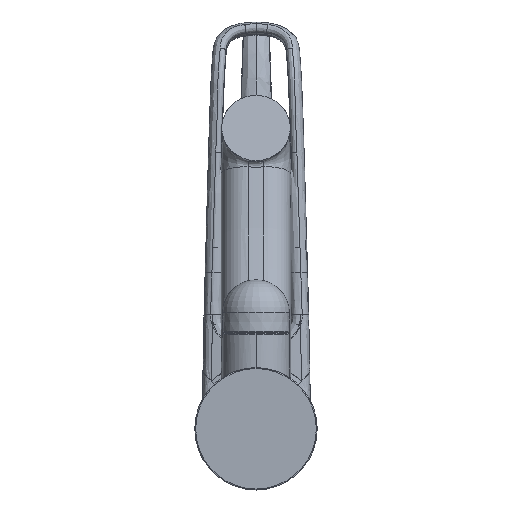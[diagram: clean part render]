
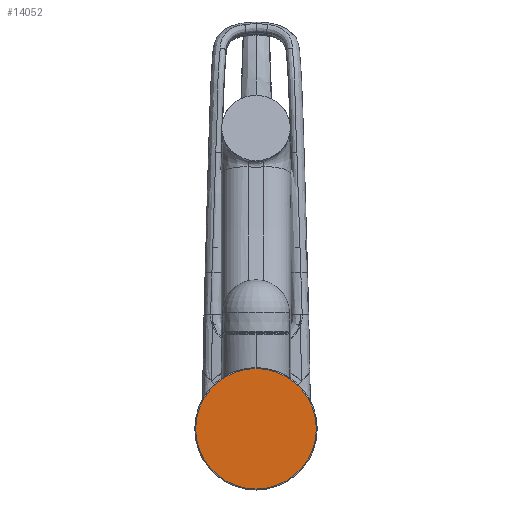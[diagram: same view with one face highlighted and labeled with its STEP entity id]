
A CAD part, front view. The second image highlights one B-rep face of the part: STEP entity #14052.
In plain terms, the highlighted planar face has unit normal (0, -1, 0).
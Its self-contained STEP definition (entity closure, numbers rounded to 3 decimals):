
#667 = AXIS2_PLACEMENT_3D ( 'NONE', #25988, #58852, #19296 ) ;
#1812 = EDGE_LOOP ( 'NONE', ( #73782, #73681 ) ) ;
#3440 = DIRECTION ( 'NONE',  ( 0., -1., 0. ) ) ;
#8661 = FACE_OUTER_BOUND ( 'NONE', #1812, .T. ) ;
#14052 = ADVANCED_FACE ( 'NONE', ( #8661 ), #43694, .T. ) ;
#17968 = AXIS2_PLACEMENT_3D ( 'NONE', #42589, #3440, #65348 ) ;
#19296 = DIRECTION ( 'NONE',  ( -1., 0., 0. ) ) ;
#20856 = VERTEX_POINT ( 'NONE', #54346 ) ;
#25988 = CARTESIAN_POINT ( 'NONE',  ( 0., 21.45, 0. ) ) ;
#39145 = CARTESIAN_POINT ( 'NONE',  ( 0., 21.45, 0. ) ) ;
#39952 = CIRCLE ( 'NONE', #667, 26.461 ) ;
#41584 = CARTESIAN_POINT ( 'NONE',  ( 26.461, 21.45, 0. ) ) ;
#42589 = CARTESIAN_POINT ( 'NONE',  ( -24., 21.45, 0. ) ) ;
#43694 = PLANE ( 'NONE',  #17968 ) ;
#45938 = EDGE_CURVE ( 'NONE', #47721, #20856, #64875, .T. ) ;
#47721 = VERTEX_POINT ( 'NONE', #41584 ) ;
#54346 = CARTESIAN_POINT ( 'NONE',  ( -26.461, 21.45, 0. ) ) ;
#58852 = DIRECTION ( 'NONE',  ( 0., -1., 0. ) ) ;
#61535 = DIRECTION ( 'NONE',  ( 0., -1., 0. ) ) ;
#63701 = AXIS2_PLACEMENT_3D ( 'NONE', #39145, #61535, #67504 ) ;
#64798 = EDGE_CURVE ( 'NONE', #20856, #47721, #39952, .T. ) ;
#64875 = CIRCLE ( 'NONE', #63701, 26.461 ) ;
#65348 = DIRECTION ( 'NONE',  ( 0., 0., 1. ) ) ;
#67504 = DIRECTION ( 'NONE',  ( -1., 0., 0. ) ) ;
#73681 = ORIENTED_EDGE ( 'NONE', *, *, #45938, .T. ) ;
#73782 = ORIENTED_EDGE ( 'NONE', *, *, #64798, .T. ) ;
